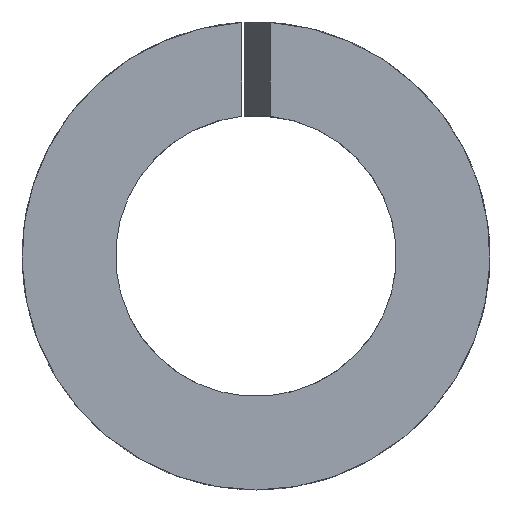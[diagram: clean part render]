
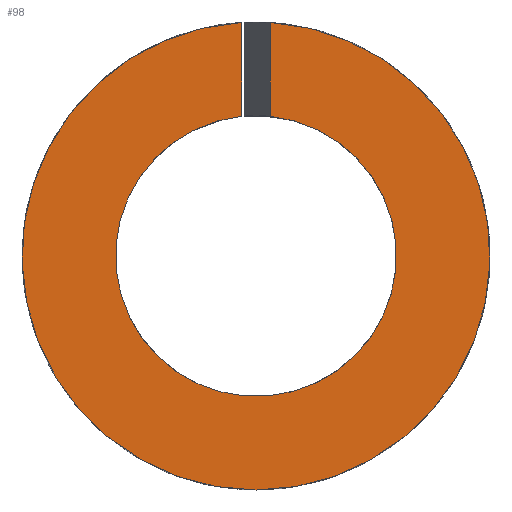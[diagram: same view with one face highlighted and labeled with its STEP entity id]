
A CAD part, left-side view. The second image highlights one B-rep face of the part: STEP entity #98.
In plain terms, the highlighted planar face has unit normal (-1, 0, 0).
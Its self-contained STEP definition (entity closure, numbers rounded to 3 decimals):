
#19=CIRCLE('',#132,2.55);
#20=CIRCLE('',#134,4.25);
#26=FACE_OUTER_BOUND('',#32,.T.);
#32=EDGE_LOOP('',(#85,#86,#87,#88));
#34=LINE('',#179,#38);
#35=LINE('',#185,#39);
#38=VECTOR('',#145,10.);
#39=VECTOR('',#150,10.);
#46=VERTEX_POINT('',#173);
#48=VERTEX_POINT('',#177);
#49=VERTEX_POINT('',#181);
#51=VERTEX_POINT('',#184);
#56=EDGE_CURVE('',#46,#48,#34,.T.);
#58=EDGE_CURVE('',#51,#49,#35,.T.);
#63=EDGE_CURVE('',#49,#46,#19,.T.);
#64=EDGE_CURVE('',#48,#51,#20,.T.);
#85=ORIENTED_EDGE('',*,*,#58,.T.);
#86=ORIENTED_EDGE('',*,*,#63,.T.);
#87=ORIENTED_EDGE('',*,*,#56,.T.);
#88=ORIENTED_EDGE('',*,*,#64,.T.);
#92=PLANE('',#135);
#98=ADVANCED_FACE('',(#26),#92,.T.);
#132=AXIS2_PLACEMENT_3D('',#193,#162,#163);
#134=AXIS2_PLACEMENT_3D('',#195,#166,#167);
#135=AXIS2_PLACEMENT_3D('',#196,#168,#169);
#145=DIRECTION('',(0.,0.,1.));
#150=DIRECTION('',(0.,0.,-1.));
#162=DIRECTION('center_axis',(1.,0.,0.));
#163=DIRECTION('ref_axis',(0.,-1.,0.));
#166=DIRECTION('center_axis',(-1.,0.,0.));
#167=DIRECTION('ref_axis',(0.,-1.,0.));
#168=DIRECTION('center_axis',(-1.,0.,0.));
#169=DIRECTION('ref_axis',(0.,0.,1.));
#173=CARTESIAN_POINT('',(0.,0.26,2.537));
#177=CARTESIAN_POINT('',(0.,0.26,4.242));
#179=CARTESIAN_POINT('',(0.,0.26,0.));
#181=CARTESIAN_POINT('',(0.,-0.26,2.537));
#184=CARTESIAN_POINT('',(0.,-0.26,4.242));
#185=CARTESIAN_POINT('',(0.,-0.26,0.));
#193=CARTESIAN_POINT('Origin',(0.,0.,0.));
#195=CARTESIAN_POINT('Origin',(0.,0.,0.));
#196=CARTESIAN_POINT('Origin',(0.,0.,0.));
